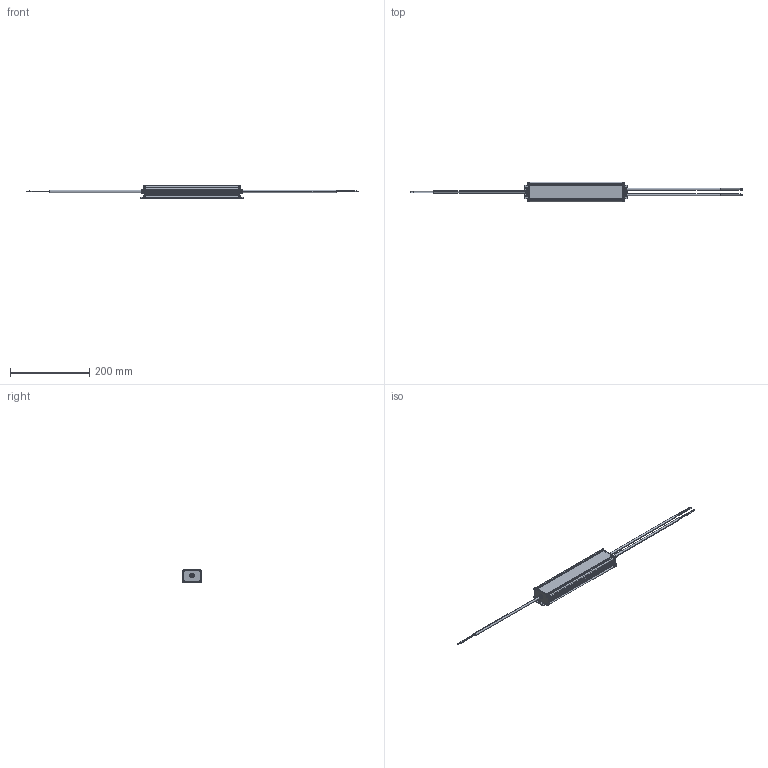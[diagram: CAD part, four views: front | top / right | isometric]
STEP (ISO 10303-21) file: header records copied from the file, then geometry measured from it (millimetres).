
FILE_DESCRIPTION(('Creo Elements/Direct Modeling STEP Export'),'2;1');
FILE_NAME('M104_EDXd1150_24.101_187509.stp','2024-10-21T10:43:08',(''),(''),'Creo Elements/Direct Modeling STEP processor for AP214 (Solid Model)','Creo Elements/Direct Modeling 20.6 25-Mar-2023 (C) Parametric Technology GmbH','');
FILE_SCHEMA(('AUTOMOTIVE_DESIGN { 1 0 10303 214 1 1 1 1 }'));
Length unit declared in the file: millimetre
Products named in the file (14): TOP-150W_1.PRT; 1270100257-M3X8_1.PRT; screws; CE-1_2.PRT; CE-2_2.PRT; DIAN-1_5_1.PRT; DIAN-1_5_2.PRT; DIAN-1_5.ASM; DIAN-2_4_1.PRT; DIAN-2_4_2.PRT; DIAN-2_4_3.PRT; DIAN-2_4.ASM; DOWN-150W_1.PRT; M104_EDXD1150_24_101_187509.stp
Assembly tree (20 placements, depth 3):
  M104_EDXD1150_24_101_187509.stp
    DOWN-150W_1.PRT
    DIAN-2_4.ASM
      DIAN-2_4_3.PRT
      DIAN-2_4_2.PRT
      DIAN-2_4_1.PRT
    DIAN-1_5.ASM
      DIAN-1_5_2.PRT
      DIAN-1_5_1.PRT
    CE-2_2.PRT
    CE-1_2.PRT
    screws
      1270100257-M3X8_1.PRT  x8
    TOP-150W_1.PRT
Bounding box: 839 x 50 x 30.51 mm (x, y, z)
Volume: 90533.3 mm3; surface area: 119627.1 mm2
Topology: 17 solids, 17 shells, 1052 faces, 2759 edges, 1777 vertices
Faces by surface type: cylinder 472, plane 274, bspline 240, cone 30, torus 28, extrusion 8
Entity records: 20524 total; most frequent: CARTESIAN_POINT 7791, ORIENTED_EDGE 2732, DIRECTION 2380, EDGE_CURVE 1366, VERTEX_POINT 895, AXIS2_PLACEMENT_3D 821, VECTOR 738, LINE 737
